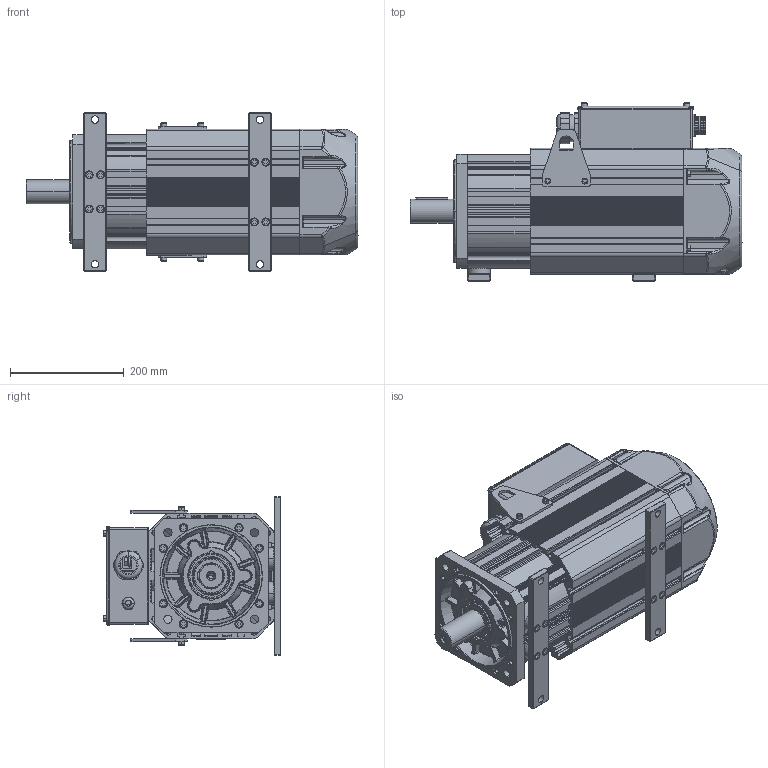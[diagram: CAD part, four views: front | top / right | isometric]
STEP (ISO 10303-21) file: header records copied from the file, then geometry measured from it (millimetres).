
FILE_DESCRIPTION((''),'2;1');
FILE_NAME('100NBZ___SW0001','2025-08-25T08:46:17',('0109502'),(''),'CREO PARAMETRIC BY PTC INC, 2019080','CREO PARAMETRIC BY PTC INC, 2019080','');
FILE_SCHEMA(('CONFIG_CONTROL_DESIGN'));
Products named in the file (1): 100NBZ___SW0001
Bounding box: 583 x 312.5 x 278.25 mm (x, y, z)
Surface area: 1786576.9 mm2 (no closed solid volume)
Topology: 0 solids, 211 shells, 3300 faces, 11554 edges, 8250 vertices
Faces by surface type: plane 1473, cylinder 1154, torus 262, bspline 199, cone 186, sphere 26
Entity records: 139823 total; most frequent: CARTESIAN_POINT 40820, DIRECTION 21001, ORIENTED_EDGE 18795, EDGE_CURVE 11534, VERTEX_POINT 8250, AXIS2_PLACEMENT_3D 7177, VECTOR 6647, LINE 6647
